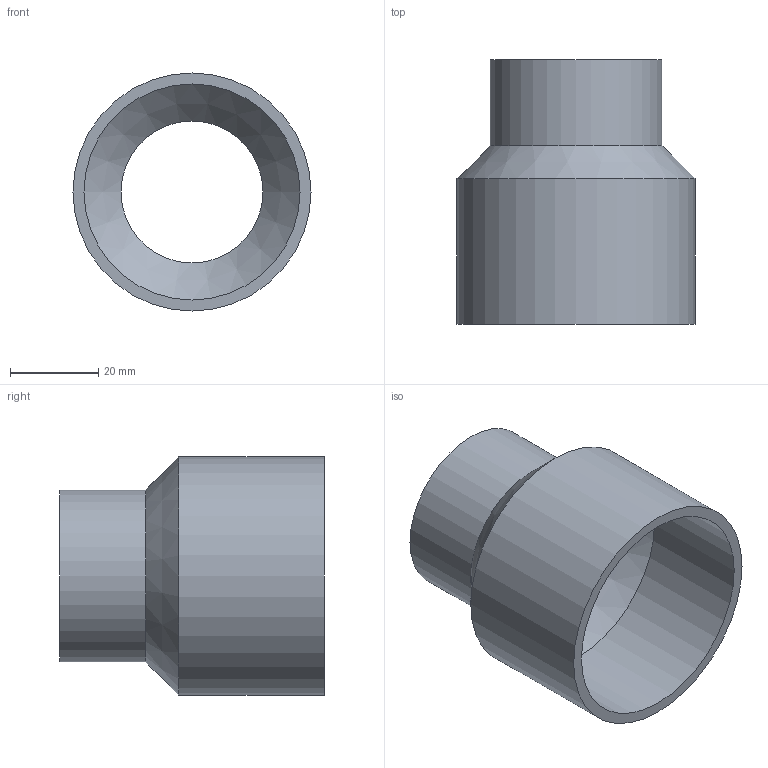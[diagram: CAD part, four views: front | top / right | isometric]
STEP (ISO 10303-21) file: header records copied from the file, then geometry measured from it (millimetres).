
FILE_DESCRIPTION(/* description */ ('Adapter'),/* implementation_level */ '2;1');
FILE_NAME(/* name */ 'P:\Adapter\Schweißstutzen und Schweißadapter\A 54a_35i.stp',/* time_stamp */ '2019-04-01T13:05:20+02:00',/* author */ ('neufeld'),/* organization */ (''),/* preprocessor_version */ 'ST-DEVELOPER v17',/* originating_system */ 'Autodesk Inventor 2019',/* authorisation */ '');
FILE_SCHEMA (('AUTOMOTIVE_DESIGN { 1 0 10303 214 3 1 1 }'));
Length unit declared in the file: millimetre
Products named in the file (1): A 54a/35i
Bounding box: 54 x 60 x 54 mm (x, y, z)
Volume: 27271.2 mm3; surface area: 18643.5 mm2
Topology: 1 solids, 1 shells, 10 faces, 27 edges, 20 vertices
Faces by surface type: cylinder 5, plane 3, cone 2
Full cylindrical faces by diameter (mm): 32.2 x1, 35.2 x1, 39 x1, 49 x1, 54 x1
Entity records: 382 total; most frequent: DIRECTION 69, CARTESIAN_POINT 58, ORIENTED_EDGE 54, AXIS2_PLACEMENT_3D 31, EDGE_CURVE 27, CIRCLE 20, VERTEX_POINT 20, EDGE_LOOP 13
